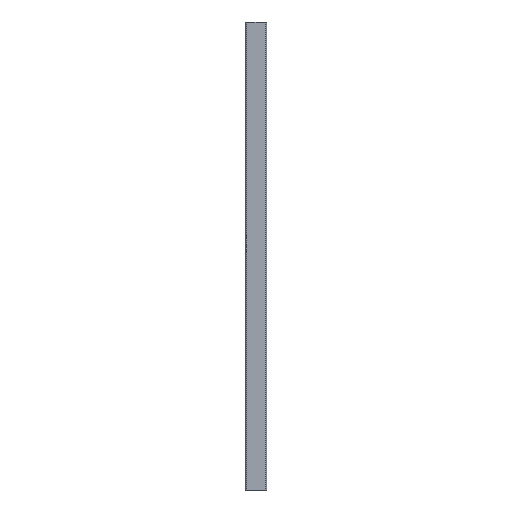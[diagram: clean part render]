
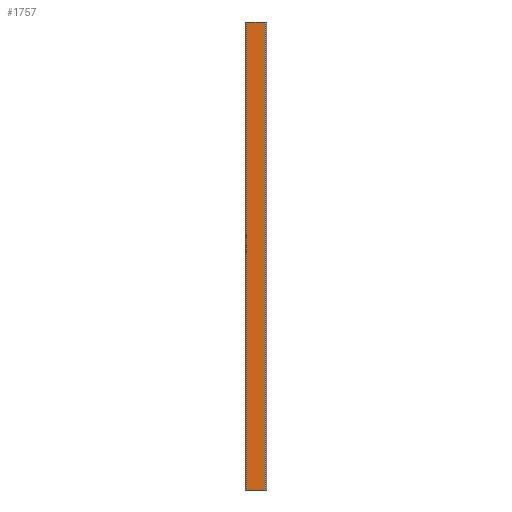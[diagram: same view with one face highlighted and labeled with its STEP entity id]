
A CAD part, left-side view. The second image highlights one B-rep face of the part: STEP entity #1757.
In plain terms, the highlighted planar face has unit normal (-1, 0, 0).
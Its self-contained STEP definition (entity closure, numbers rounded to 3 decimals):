
#6 = EDGE_CURVE ( 'NONE', #4578, #2937, #3200, .T. ) ;
#93 = CARTESIAN_POINT ( 'NONE',  ( -22.5, 19.5, -500. ) ) ;
#286 = DIRECTION ( 'NONE',  ( 1., 0., 0. ) ) ;
#615 = ORIENTED_EDGE ( 'NONE', *, *, #3991, .T. ) ;
#762 = LINE ( 'NONE', #4019, #924 ) ;
#924 = VECTOR ( 'NONE', #2572, 1000. ) ;
#1056 = CARTESIAN_POINT ( 'NONE',  ( -22.5, 22.5, 500. ) ) ;
#1229 = VECTOR ( 'NONE', #4191, 1000. ) ;
#1428 = EDGE_LOOP ( 'NONE', ( #3050, #615, #4596, #3137 ) ) ;
#1473 = CARTESIAN_POINT ( 'NONE',  ( -22.5, 19.5, 500. ) ) ;
#1585 = PLANE ( 'NONE',  #2614 ) ;
#1757 = ADVANCED_FACE ( 'NONE', ( #5228 ), #1585, .F. ) ;
#2464 = CARTESIAN_POINT ( 'NONE',  ( -22.5, 22.5, 500. ) ) ;
#2572 = DIRECTION ( 'NONE',  ( 0., -1., 0. ) ) ;
#2614 = AXIS2_PLACEMENT_3D ( 'NONE', #1056, #286, #2865 ) ;
#2705 = EDGE_CURVE ( 'NONE', #4578, #5681, #5660, .T. ) ;
#2865 = DIRECTION ( 'NONE',  ( 0., 0., -1. ) ) ;
#2937 = VERTEX_POINT ( 'NONE', #93 ) ;
#3050 = ORIENTED_EDGE ( 'NONE', *, *, #4907, .T. ) ;
#3089 = DIRECTION ( 'NONE',  ( 0., 0., 1. ) ) ;
#3137 = ORIENTED_EDGE ( 'NONE', *, *, #6, .T. ) ;
#3200 = LINE ( 'NONE', #1473, #1229 ) ;
#3228 = VECTOR ( 'NONE', #3089, 1000. ) ;
#3256 = CARTESIAN_POINT ( 'NONE',  ( -22.5, -19.5, 500. ) ) ;
#3991 = EDGE_CURVE ( 'NONE', #4341, #5681, #5367, .T. ) ;
#4019 = CARTESIAN_POINT ( 'NONE',  ( -22.5, 22.5, -500. ) ) ;
#4087 = CARTESIAN_POINT ( 'NONE',  ( -22.5, 19.5, 500. ) ) ;
#4191 = DIRECTION ( 'NONE',  ( 0., 0., -1. ) ) ;
#4234 = VECTOR ( 'NONE', #4295, 1000. ) ;
#4295 = DIRECTION ( 'NONE',  ( 0., -1., 0. ) ) ;
#4341 = VERTEX_POINT ( 'NONE', #4677 ) ;
#4578 = VERTEX_POINT ( 'NONE', #4087 ) ;
#4596 = ORIENTED_EDGE ( 'NONE', *, *, #2705, .F. ) ;
#4677 = CARTESIAN_POINT ( 'NONE',  ( -22.5, -19.5, -500. ) ) ;
#4907 = EDGE_CURVE ( 'NONE', #2937, #4341, #762, .T. ) ;
#5228 = FACE_OUTER_BOUND ( 'NONE', #1428, .T. ) ;
#5367 = LINE ( 'NONE', #5806, #3228 ) ;
#5660 = LINE ( 'NONE', #2464, #4234 ) ;
#5681 = VERTEX_POINT ( 'NONE', #3256 ) ;
#5806 = CARTESIAN_POINT ( 'NONE',  ( -22.5, -19.5, 500. ) ) ;
